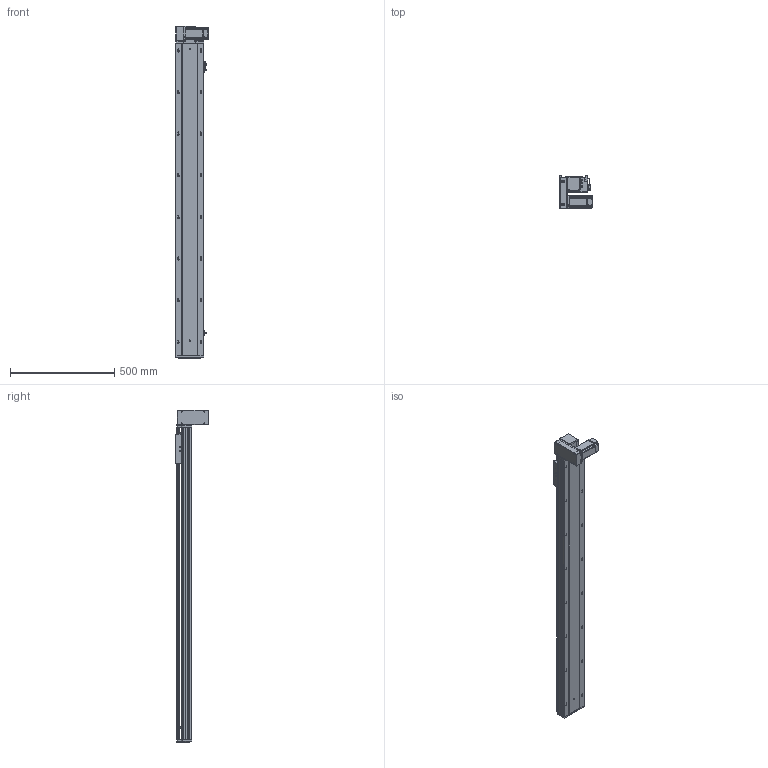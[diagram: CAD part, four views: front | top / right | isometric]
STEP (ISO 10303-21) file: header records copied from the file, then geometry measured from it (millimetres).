
FILE_DESCRIPTION (( 'STEP AP203' ), '1' );
FILE_NAME ('RY140-T-300-DL.SLDASM_1250.step', '2021-03-01T06:06:46', ( '盈信电脑' ), ( '东莞市道滘镇水果街19号' ), 'SwSTEP 2.0', 'SolidWorks 2012', '' );
FILE_SCHEMA (( 'CONFIG_CONTROL_DESIGN' ));
Length unit declared in the file: millimetre
Products named in the file (18): RY140-T-300-DL.SLDASM_1250; RY140-T翋肮謫裔啣; 滅袉蝶18-10; RY140-T萇儂欶; RY120-T蹟翐M4; RY120-T主同步轮轴承压盖; RY140-T翋肮祭謫盓傅釱; 侂狟400W侜督萇儂; 15; RY140-T萇儂假蚾啣; RY120-T肮祭湍揤踡輸1; RY120-T肮祭湍揤踡輸2; RY120外置感应片(140共用）; 覜茼ん672; RY140綴裔啣; RY140肮祭謫臏賑輸; RY140-T-300-DL倰第奻裔啣_1250; RY140-T-300-DL倰第菁釱_1250
Assembly tree (23 placements, depth 3):
  RY140-T-300-DL.SLDASM_1250
    RY140-T-300-DL倰第菁釱_1250
    RY140肮祭謫臏賑輸
    RY140-T-300-DL倰第奻裔啣_1250
    RY140綴裔啣
    覜茼ん672  x3
    RY120外置感应片(140共用）
    RY120-T肮祭湍揤踡輸2
    RY120-T肮祭湍揤踡輸1
    RY140-T翋肮祭謫盓傅釱
    RY140-T萇儂假蚾啣
    侂狟400W侜督萇儂
      15
    RY120-T主同步轮轴承压盖
    RY120-T蹟翐M4  x4
    RY140-T萇儂欶
    滅袉蝶18-10  x2
    RY140-T翋肮謫裔啣
Bounding box: 157 x 158.5 x 1596 mm (x, y, z)
Volume: 4595000.8 mm3; surface area: 1768816.5 mm2
Topology: 22 solids, 22 shells, 2730 faces, 7470 edges, 4780 vertices
Faces by surface type: plane 1385, cylinder 1007, cone 238, bspline 100
Entity records: 86208 total; most frequent: CARTESIAN_POINT 20939, ORIENTED_EDGE 13388, DIRECTION 12780, EDGE_CURVE 6694, VERTEX_POINT 4379, LINE 4266, VECTOR 4266, AXIS2_PLACEMENT_3D 4257
